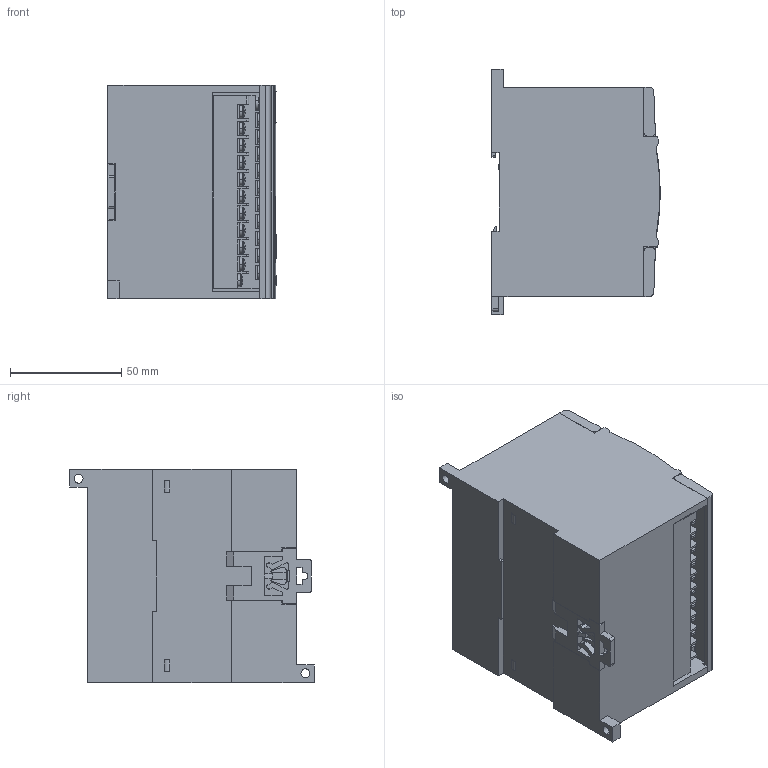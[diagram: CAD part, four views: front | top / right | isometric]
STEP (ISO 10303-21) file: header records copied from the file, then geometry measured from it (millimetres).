
FILE_DESCRIPTION (( 'STEP AP214' ), '1' );
FILE_NAME ('3D Ìîäåëü ÏÐ110-Õ.12Ä.Õ.Õ.STEP', '2016-10-30T14:34:51', ( '' ), ( '' ), 'SwSTEP 2.0', 'SolidWorks 2011', '' );
FILE_SCHEMA (( 'AUTOMOTIVE_DESIGN' ));
Length unit declared in the file: millimetre
Products named in the file (11): Ñáîðêà êëåììíàÿ êîëîäêà; pan head cross recess screw_iso_ISO 7045 - M3 x 20 - Z --- 20N; pan head cross recess screw_iso_ISO 7045 - M3 x 10 - Z --- 10N; Øàéáà êâàäðàòíàÿ Ì3; Êëåììíàÿ êîëîäêà; Ðàçúåì ïðîãðàììèðîâàíèÿ UART; 婰膲僗闉; Êðûøêà ïðîçðà÷íàÿ ÏÐ110-12Ä; PR110_002FA02M; Êîðïóñ ÏÐ110-Õ.12Ä; 3D Ìîäåëü ÏÐ110-Õ.12Ä.Õ.Õ
Assembly tree (51 placements, depth 3):
  3D Ìîäåëü ÏÐ110-Õ.12Ä.Õ.Õ
    Êîðïóñ ÏÐ110-Õ.12Ä
    PR110_002FA02M
    Êðûøêà ïðîçðà÷íàÿ ÏÐ110-12Ä  x2
    婰膲僗闉
    Ðàçúåì ïðîãðàììèðîâàíèÿ UART
    Ñáîðêà êëåììíàÿ êîëîäêà  x2
      Êëåììíàÿ êîëîäêà
      Øàéáà êâàäðàòíàÿ Ì3
      pan head cross recess screw_iso_ISO 7045 - M3 x 10 - Z --- 10N
      pan head cross recess screw_iso_ISO 7045 - M3 x 20 - Z --- 20N
Bounding box: 75.62 x 110 x 96 mm (x, y, z)
Volume: 672850.2 mm3; surface area: 105573 mm2
Topology: 93 solids, 93 shells, 4161 faces, 10284 edges, 6449 vertices
Faces by surface type: plane 2189, cylinder 734, bspline 490, cone 484, torus 176, sphere 88
Entity records: 81926 total; most frequent: CARTESIAN_POINT 30776, ORIENTED_EDGE 8908, DIRECTION 6088, EDGE_CURVE 4454, VERTEX_POINT 2953, AXIS2_PLACEMENT_3D 2032, LINE 2024, VECTOR 2024
